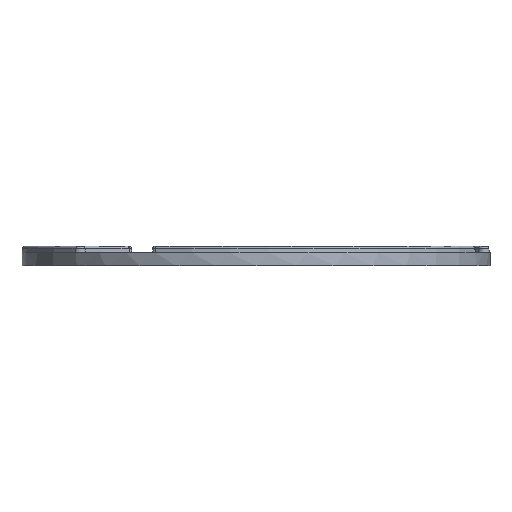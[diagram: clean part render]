
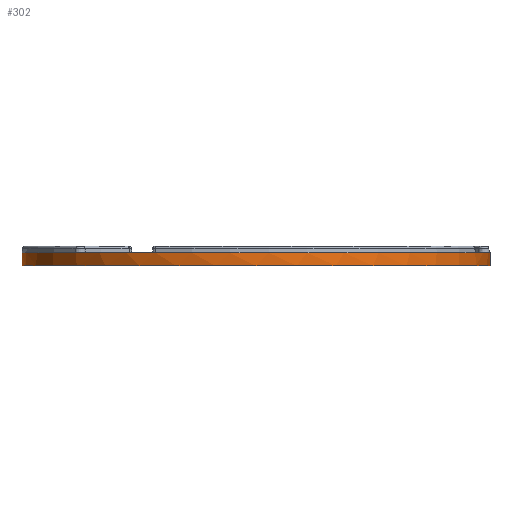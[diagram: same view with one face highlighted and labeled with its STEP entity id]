
A CAD part, front view. The second image highlights one B-rep face of the part: STEP entity #302.
In plain terms, the highlighted cylindrical face has radius 106.5 mm (diameter 213 mm), a full revolution.
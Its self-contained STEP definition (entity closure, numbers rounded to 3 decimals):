
#22 = VERTEX_POINT('',#23);
#23 = CARTESIAN_POINT('',(99.805,-37.164,6.));
#31 = CONICAL_SURFACE('',#32,106.5,0.105);
#32 = AXIS2_PLACEMENT_3D('',#33,#34,#35);
#33 = CARTESIAN_POINT('',(0.,0.,6.));
#34 = DIRECTION('',(0.,0.,-1.));
#35 = DIRECTION('',(-0.5,-0.866,0.));
#83 = VERTEX_POINT('',#84);
#84 = CARTESIAN_POINT('',(-45.721,-96.186,6.));
#107 = EDGE_CURVE('',#83,#22,#108,.T.);
#108 = SURFACE_CURVE('',#109,(#114,#121),.PCURVE_S1.);
#109 = CIRCLE('',#110,106.5);
#110 = AXIS2_PLACEMENT_3D('',#111,#112,#113);
#111 = CARTESIAN_POINT('',(0.,0.,6.));
#112 = DIRECTION('',(0.,0.,1.));
#113 = DIRECTION('',(1.,0.,0.));
#114 = PCURVE('',#31,#115);
#115 = DEFINITIONAL_REPRESENTATION('',(#116),#120);
#116 = LINE('',#117,#118);
#117 = CARTESIAN_POINT('',(4.189,-0.));
#118 = VECTOR('',#119,1.);
#119 = DIRECTION('',(-1.,-0.));
#120 = ( GEOMETRIC_REPRESENTATION_CONTEXT(2) 
PARAMETRIC_REPRESENTATION_CONTEXT() REPRESENTATION_CONTEXT('2D SPACE',''
  ) );
#121 = PCURVE('',#122,#127);
#122 = CYLINDRICAL_SURFACE('',#123,106.5);
#123 = AXIS2_PLACEMENT_3D('',#124,#125,#126);
#124 = CARTESIAN_POINT('',(0.,0.,0.));
#125 = DIRECTION('',(-0.,-0.,-1.));
#126 = DIRECTION('',(1.,0.,0.));
#127 = DEFINITIONAL_REPRESENTATION('',(#128),#132);
#128 = LINE('',#129,#130);
#129 = CARTESIAN_POINT('',(-0.,-6.));
#130 = VECTOR('',#131,1.);
#131 = DIRECTION('',(-1.,0.));
#132 = ( GEOMETRIC_REPRESENTATION_CONTEXT(2) 
PARAMETRIC_REPRESENTATION_CONTEXT() REPRESENTATION_CONTEXT('2D SPACE',''
  ) );
#207 = PLANE('',#208);
#208 = AXIS2_PLACEMENT_3D('',#209,#210,#211);
#209 = CARTESIAN_POINT('',(0.,0.,6.));
#210 = DIRECTION('',(0.,0.,1.));
#211 = DIRECTION('',(1.,0.,0.));
#302 = ADVANCED_FACE('',(#303),#122,.T.);
#303 = FACE_BOUND('',#304,.F.);
#304 = EDGE_LOOP('',(#305,#330,#357,#358,#382,#411,#435,#464,#486,#487)
  );
#305 = ORIENTED_EDGE('',*,*,#306,.F.);
#306 = EDGE_CURVE('',#307,#309,#311,.T.);
#307 = VERTEX_POINT('',#308);
#308 = CARTESIAN_POINT('',(106.5,0.,0.));
#309 = VERTEX_POINT('',#310);
#310 = CARTESIAN_POINT('',(106.5,0.,6.));
#311 = SEAM_CURVE('',#312,(#316,#323),.PCURVE_S1.);
#312 = LINE('',#313,#314);
#313 = CARTESIAN_POINT('',(106.5,0.,0.));
#314 = VECTOR('',#315,1.);
#315 = DIRECTION('',(0.,0.,1.));
#316 = PCURVE('',#122,#317);
#317 = DEFINITIONAL_REPRESENTATION('',(#318),#322);
#318 = LINE('',#319,#320);
#319 = CARTESIAN_POINT('',(-6.283,0.));
#320 = VECTOR('',#321,1.);
#321 = DIRECTION('',(-0.,-1.));
#322 = ( GEOMETRIC_REPRESENTATION_CONTEXT(2) 
PARAMETRIC_REPRESENTATION_CONTEXT() REPRESENTATION_CONTEXT('2D SPACE',''
  ) );
#323 = PCURVE('',#122,#324);
#324 = DEFINITIONAL_REPRESENTATION('',(#325),#329);
#325 = LINE('',#326,#327);
#326 = CARTESIAN_POINT('',(-0.,0.));
#327 = VECTOR('',#328,1.);
#328 = DIRECTION('',(-0.,-1.));
#329 = ( GEOMETRIC_REPRESENTATION_CONTEXT(2) 
PARAMETRIC_REPRESENTATION_CONTEXT() REPRESENTATION_CONTEXT('2D SPACE',''
  ) );
#330 = ORIENTED_EDGE('',*,*,#331,.F.);
#331 = EDGE_CURVE('',#307,#307,#332,.T.);
#332 = SURFACE_CURVE('',#333,(#338,#345),.PCURVE_S1.);
#333 = CIRCLE('',#334,106.5);
#334 = AXIS2_PLACEMENT_3D('',#335,#336,#337);
#335 = CARTESIAN_POINT('',(0.,0.,0.));
#336 = DIRECTION('',(0.,0.,1.));
#337 = DIRECTION('',(1.,0.,0.));
#338 = PCURVE('',#122,#339);
#339 = DEFINITIONAL_REPRESENTATION('',(#340),#344);
#340 = LINE('',#341,#342);
#341 = CARTESIAN_POINT('',(-0.,0.));
#342 = VECTOR('',#343,1.);
#343 = DIRECTION('',(-1.,0.));
#344 = ( GEOMETRIC_REPRESENTATION_CONTEXT(2) 
PARAMETRIC_REPRESENTATION_CONTEXT() REPRESENTATION_CONTEXT('2D SPACE',''
  ) );
#345 = PCURVE('',#346,#351);
#346 = PLANE('',#347);
#347 = AXIS2_PLACEMENT_3D('',#348,#349,#350);
#348 = CARTESIAN_POINT('',(0.,0.,0.));
#349 = DIRECTION('',(0.,0.,1.));
#350 = DIRECTION('',(1.,0.,0.));
#351 = DEFINITIONAL_REPRESENTATION('',(#352),#356);
#352 = CIRCLE('',#353,106.5);
#353 = AXIS2_PLACEMENT_2D('',#354,#355);
#354 = CARTESIAN_POINT('',(0.,0.));
#355 = DIRECTION('',(1.,0.));
#356 = ( GEOMETRIC_REPRESENTATION_CONTEXT(2) 
PARAMETRIC_REPRESENTATION_CONTEXT() REPRESENTATION_CONTEXT('2D SPACE',''
  ) );
#357 = ORIENTED_EDGE('',*,*,#306,.T.);
#358 = ORIENTED_EDGE('',*,*,#359,.T.);
#359 = EDGE_CURVE('',#309,#360,#362,.T.);
#360 = VERTEX_POINT('',#361);
#361 = CARTESIAN_POINT('',(106.16,8.497,6.));
#362 = SURFACE_CURVE('',#363,(#368,#375),.PCURVE_S1.);
#363 = CIRCLE('',#364,106.5);
#364 = AXIS2_PLACEMENT_3D('',#365,#366,#367);
#365 = CARTESIAN_POINT('',(0.,0.,6.));
#366 = DIRECTION('',(0.,0.,1.));
#367 = DIRECTION('',(1.,0.,0.));
#368 = PCURVE('',#122,#369);
#369 = DEFINITIONAL_REPRESENTATION('',(#370),#374);
#370 = LINE('',#371,#372);
#371 = CARTESIAN_POINT('',(-0.,-6.));
#372 = VECTOR('',#373,1.);
#373 = DIRECTION('',(-1.,0.));
#374 = ( GEOMETRIC_REPRESENTATION_CONTEXT(2) 
PARAMETRIC_REPRESENTATION_CONTEXT() REPRESENTATION_CONTEXT('2D SPACE',''
  ) );
#375 = PCURVE('',#207,#376);
#376 = DEFINITIONAL_REPRESENTATION('',(#377),#381);
#377 = CIRCLE('',#378,106.5);
#378 = AXIS2_PLACEMENT_2D('',#379,#380);
#379 = CARTESIAN_POINT('',(0.,0.));
#380 = DIRECTION('',(1.,0.));
#381 = ( GEOMETRIC_REPRESENTATION_CONTEXT(2) 
PARAMETRIC_REPRESENTATION_CONTEXT() REPRESENTATION_CONTEXT('2D SPACE',''
  ) );
#382 = ORIENTED_EDGE('',*,*,#383,.T.);
#383 = EDGE_CURVE('',#360,#384,#386,.T.);
#384 = VERTEX_POINT('',#385);
#385 = CARTESIAN_POINT('',(-17.717,105.016,6.));
#386 = SURFACE_CURVE('',#387,(#392,#399),.PCURVE_S1.);
#387 = CIRCLE('',#388,106.5);
#388 = AXIS2_PLACEMENT_3D('',#389,#390,#391);
#389 = CARTESIAN_POINT('',(0.,0.,6.));
#390 = DIRECTION('',(0.,0.,1.));
#391 = DIRECTION('',(1.,0.,0.));
#392 = PCURVE('',#122,#393);
#393 = DEFINITIONAL_REPRESENTATION('',(#394),#398);
#394 = LINE('',#395,#396);
#395 = CARTESIAN_POINT('',(-0.,-6.));
#396 = VECTOR('',#397,1.);
#397 = DIRECTION('',(-1.,0.));
#398 = ( GEOMETRIC_REPRESENTATION_CONTEXT(2) 
PARAMETRIC_REPRESENTATION_CONTEXT() REPRESENTATION_CONTEXT('2D SPACE',''
  ) );
#399 = PCURVE('',#400,#405);
#400 = CONICAL_SURFACE('',#401,106.5,0.105);
#401 = AXIS2_PLACEMENT_3D('',#402,#403,#404);
#402 = CARTESIAN_POINT('',(0.,0.,6.));
#403 = DIRECTION('',(-0.,-0.,-1.));
#404 = DIRECTION('',(1.,0.,0.));
#405 = DEFINITIONAL_REPRESENTATION('',(#406),#410);
#406 = LINE('',#407,#408);
#407 = CARTESIAN_POINT('',(-0.,-0.));
#408 = VECTOR('',#409,1.);
#409 = DIRECTION('',(-1.,-0.));
#410 = ( GEOMETRIC_REPRESENTATION_CONTEXT(2) 
PARAMETRIC_REPRESENTATION_CONTEXT() REPRESENTATION_CONTEXT('2D SPACE',''
  ) );
#411 = ORIENTED_EDGE('',*,*,#412,.T.);
#412 = EDGE_CURVE('',#384,#413,#415,.T.);
#413 = VERTEX_POINT('',#414);
#414 = CARTESIAN_POINT('',(-60.439,87.689,6.));
#415 = SURFACE_CURVE('',#416,(#421,#428),.PCURVE_S1.);
#416 = CIRCLE('',#417,106.5);
#417 = AXIS2_PLACEMENT_3D('',#418,#419,#420);
#418 = CARTESIAN_POINT('',(0.,0.,6.));
#419 = DIRECTION('',(0.,0.,1.));
#420 = DIRECTION('',(1.,0.,0.));
#421 = PCURVE('',#122,#422);
#422 = DEFINITIONAL_REPRESENTATION('',(#423),#427);
#423 = LINE('',#424,#425);
#424 = CARTESIAN_POINT('',(-0.,-6.));
#425 = VECTOR('',#426,1.);
#426 = DIRECTION('',(-1.,0.));
#427 = ( GEOMETRIC_REPRESENTATION_CONTEXT(2) 
PARAMETRIC_REPRESENTATION_CONTEXT() REPRESENTATION_CONTEXT('2D SPACE',''
  ) );
#428 = PCURVE('',#207,#429);
#429 = DEFINITIONAL_REPRESENTATION('',(#430),#434);
#430 = CIRCLE('',#431,106.5);
#431 = AXIS2_PLACEMENT_2D('',#432,#433);
#432 = CARTESIAN_POINT('',(0.,0.));
#433 = DIRECTION('',(1.,0.));
#434 = ( GEOMETRIC_REPRESENTATION_CONTEXT(2) 
PARAMETRIC_REPRESENTATION_CONTEXT() REPRESENTATION_CONTEXT('2D SPACE',''
  ) );
#435 = ORIENTED_EDGE('',*,*,#436,.T.);
#436 = EDGE_CURVE('',#413,#437,#439,.T.);
#437 = VERTEX_POINT('',#438);
#438 = CARTESIAN_POINT('',(-82.088,-67.852,6.));
#439 = SURFACE_CURVE('',#440,(#445,#452),.PCURVE_S1.);
#440 = CIRCLE('',#441,106.5);
#441 = AXIS2_PLACEMENT_3D('',#442,#443,#444);
#442 = CARTESIAN_POINT('',(0.,0.,6.));
#443 = DIRECTION('',(0.,0.,1.));
#444 = DIRECTION('',(1.,0.,0.));
#445 = PCURVE('',#122,#446);
#446 = DEFINITIONAL_REPRESENTATION('',(#447),#451);
#447 = LINE('',#448,#449);
#448 = CARTESIAN_POINT('',(-0.,-6.));
#449 = VECTOR('',#450,1.);
#450 = DIRECTION('',(-1.,0.));
#451 = ( GEOMETRIC_REPRESENTATION_CONTEXT(2) 
PARAMETRIC_REPRESENTATION_CONTEXT() REPRESENTATION_CONTEXT('2D SPACE',''
  ) );
#452 = PCURVE('',#453,#458);
#453 = CONICAL_SURFACE('',#454,106.5,0.105);
#454 = AXIS2_PLACEMENT_3D('',#455,#456,#457);
#455 = CARTESIAN_POINT('',(0.,0.,6.));
#456 = DIRECTION('',(0.,0.,-1.));
#457 = DIRECTION('',(-0.5,0.866,0.));
#458 = DEFINITIONAL_REPRESENTATION('',(#459),#463);
#459 = LINE('',#460,#461);
#460 = CARTESIAN_POINT('',(2.094,-0.));
#461 = VECTOR('',#462,1.);
#462 = DIRECTION('',(-1.,-0.));
#463 = ( GEOMETRIC_REPRESENTATION_CONTEXT(2) 
PARAMETRIC_REPRESENTATION_CONTEXT() REPRESENTATION_CONTEXT('2D SPACE',''
  ) );
#464 = ORIENTED_EDGE('',*,*,#465,.T.);
#465 = EDGE_CURVE('',#437,#83,#466,.T.);
#466 = SURFACE_CURVE('',#467,(#472,#479),.PCURVE_S1.);
#467 = CIRCLE('',#468,106.5);
#468 = AXIS2_PLACEMENT_3D('',#469,#470,#471);
#469 = CARTESIAN_POINT('',(0.,0.,6.));
#470 = DIRECTION('',(0.,0.,1.));
#471 = DIRECTION('',(1.,0.,0.));
#472 = PCURVE('',#122,#473);
#473 = DEFINITIONAL_REPRESENTATION('',(#474),#478);
#474 = LINE('',#475,#476);
#475 = CARTESIAN_POINT('',(-0.,-6.));
#476 = VECTOR('',#477,1.);
#477 = DIRECTION('',(-1.,0.));
#478 = ( GEOMETRIC_REPRESENTATION_CONTEXT(2) 
PARAMETRIC_REPRESENTATION_CONTEXT() REPRESENTATION_CONTEXT('2D SPACE',''
  ) );
#479 = PCURVE('',#207,#480);
#480 = DEFINITIONAL_REPRESENTATION('',(#481),#485);
#481 = CIRCLE('',#482,106.5);
#482 = AXIS2_PLACEMENT_2D('',#483,#484);
#483 = CARTESIAN_POINT('',(0.,0.));
#484 = DIRECTION('',(1.,0.));
#485 = ( GEOMETRIC_REPRESENTATION_CONTEXT(2) 
PARAMETRIC_REPRESENTATION_CONTEXT() REPRESENTATION_CONTEXT('2D SPACE',''
  ) );
#486 = ORIENTED_EDGE('',*,*,#107,.T.);
#487 = ORIENTED_EDGE('',*,*,#488,.T.);
#488 = EDGE_CURVE('',#22,#309,#489,.T.);
#489 = SURFACE_CURVE('',#490,(#495,#502),.PCURVE_S1.);
#490 = CIRCLE('',#491,106.5);
#491 = AXIS2_PLACEMENT_3D('',#492,#493,#494);
#492 = CARTESIAN_POINT('',(0.,0.,6.));
#493 = DIRECTION('',(0.,0.,1.));
#494 = DIRECTION('',(1.,0.,0.));
#495 = PCURVE('',#122,#496);
#496 = DEFINITIONAL_REPRESENTATION('',(#497),#501);
#497 = LINE('',#498,#499);
#498 = CARTESIAN_POINT('',(-0.,-6.));
#499 = VECTOR('',#500,1.);
#500 = DIRECTION('',(-1.,0.));
#501 = ( GEOMETRIC_REPRESENTATION_CONTEXT(2) 
PARAMETRIC_REPRESENTATION_CONTEXT() REPRESENTATION_CONTEXT('2D SPACE',''
  ) );
#502 = PCURVE('',#207,#503);
#503 = DEFINITIONAL_REPRESENTATION('',(#504),#508);
#504 = CIRCLE('',#505,106.5);
#505 = AXIS2_PLACEMENT_2D('',#506,#507);
#506 = CARTESIAN_POINT('',(0.,0.));
#507 = DIRECTION('',(1.,0.));
#508 = ( GEOMETRIC_REPRESENTATION_CONTEXT(2) 
PARAMETRIC_REPRESENTATION_CONTEXT() REPRESENTATION_CONTEXT('2D SPACE',''
  ) );
